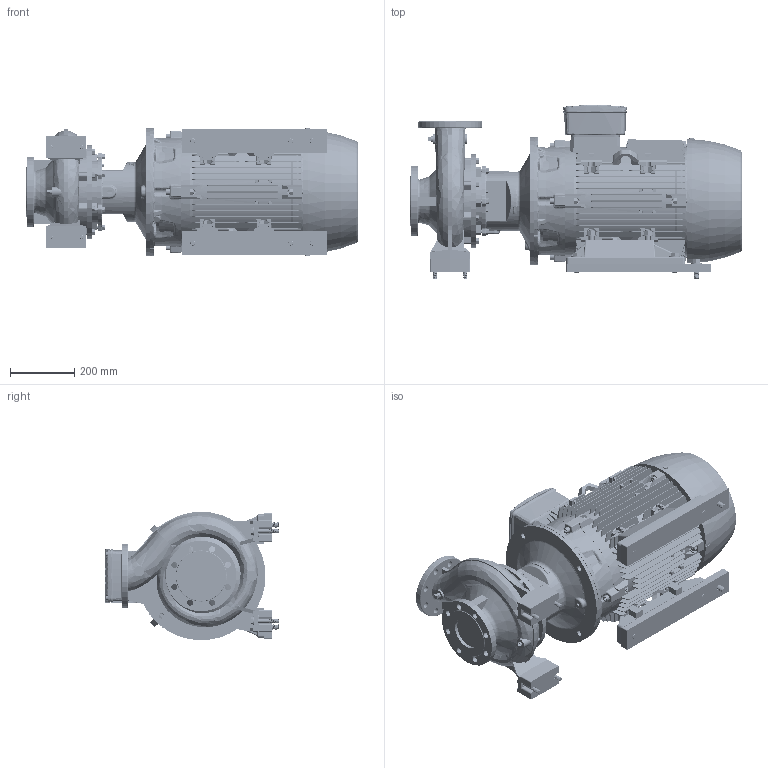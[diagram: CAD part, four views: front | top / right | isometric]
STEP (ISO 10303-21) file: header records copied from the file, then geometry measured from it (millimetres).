
FILE_DESCRIPTION (( 'STEP AP214' ), '1' );
FILE_NAME ('GSD2 80-200_30.0 & 37.0_(200ML)_W21.STEP', '2026-07-08T03:10:34', ( '' ), ( '' ), 'SwSTEP 2.0', 'SolidWorks 2024', '' );
FILE_SCHEMA (( 'AUTOMOTIVE_DESIGN' ));
Length unit declared in the file: millimetre
Products named in the file (11): 80x25 - CGSDA-5271; 80-200-200M_L_ﾃﾞﾌｫﾙﾄ; Parametric bolt and washer_SFT-A359B; Parametric bolt_SFT-A359B; CGS11-5311_2_3_4_5_CGS11-5311; Parametric bolt_SFT-A319B; Parametric bolt and washer_SFT-A319B; Parametric Flat Washer_M12; GSD2  80-200_30.0 & 37.0_(200ML)_W21; Parametric Flat Washer_M16; 200M_L ALIE3_W21T_B35
Assembly tree (22 placements, depth 3):
  GSD2  80-200_30.0 & 37.0_(200ML)_W21
    80-200-200M_L_ﾃﾞﾌｫﾙﾄ
    CGS11-5311_2_3_4_5_CGS11-5311  x4
    80x25 - CGSDA-5271  x2
    Parametric bolt and washer_SFT-A359B  x6
      Parametric bolt_SFT-A359B
      Parametric Flat Washer_M16
    Parametric bolt and washer_SFT-A319B  x4
      Parametric bolt_SFT-A319B
      Parametric Flat Washer_M12
    200M_L ALIE3_W21T_B35
Bounding box: 1033.8 x 542 x 400 mm (x, y, z)
Volume: 84825556.8 mm3; surface area: 4426967.9 mm2
Topology: 49 solids, 59 shells, 7482 faces, 19343 edges, 12407 vertices
Faces by surface type: plane 4304, cylinder 1392, bspline 973, cone 590, torus 219, sphere 4
Entity records: 276126 total; most frequent: CARTESIAN_POINT 118668, ORIENTED_EDGE 35140, DIRECTION 28443, EDGE_CURVE 17570, VERTEX_POINT 11319, VECTOR 10791, LINE 10791, AXIS2_PLACEMENT_3D 8826
